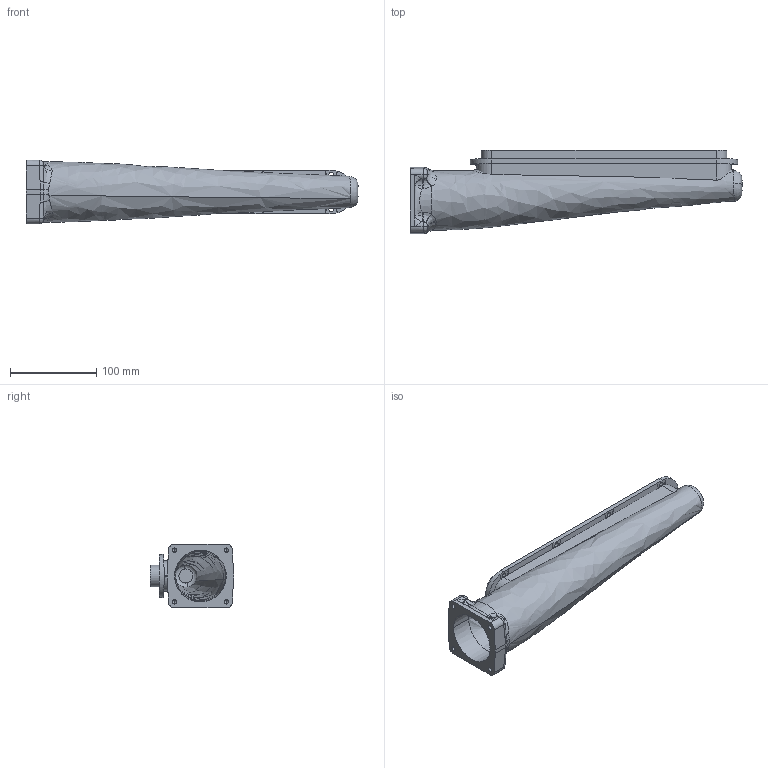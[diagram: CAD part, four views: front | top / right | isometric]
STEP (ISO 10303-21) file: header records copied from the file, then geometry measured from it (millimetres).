
FILE_DESCRIPTION (( 'STEP AP203' ), '1' );
FILE_NAME ('Lehmann turbo manifold MX-5 Miata F40 cone.STEP', '2025-03-13T13:50:08', ( '' ), ( '' ), 'SwSTEP 2.0', 'SolidWorks 2019', '' );
FILE_SCHEMA (( 'CONFIG_CONTROL_DESIGN' ));
Length unit declared in the file: millimetre
Products named in the file (1): Lehmann turbo manifold MX-5 Miata F40 cone
Bounding box: 385 x 96.51 x 74 mm (x, y, z)
Volume: 499046.2 mm3; surface area: 188121.3 mm2
Topology: 2 solids, 2 shells, 288 faces, 717 edges, 425 vertices
Faces by surface type: bspline 136, cylinder 74, plane 48, cone 20, sphere 6, torus 4
Entity records: 19452 total; most frequent: CARTESIAN_POINT 13604, ORIENTED_EDGE 1410, DIRECTION 942, EDGE_CURVE 705, VERTEX_POINT 425, AXIS2_PLACEMENT_3D 391, EDGE_LOOP 312, ADVANCED_FACE 288
